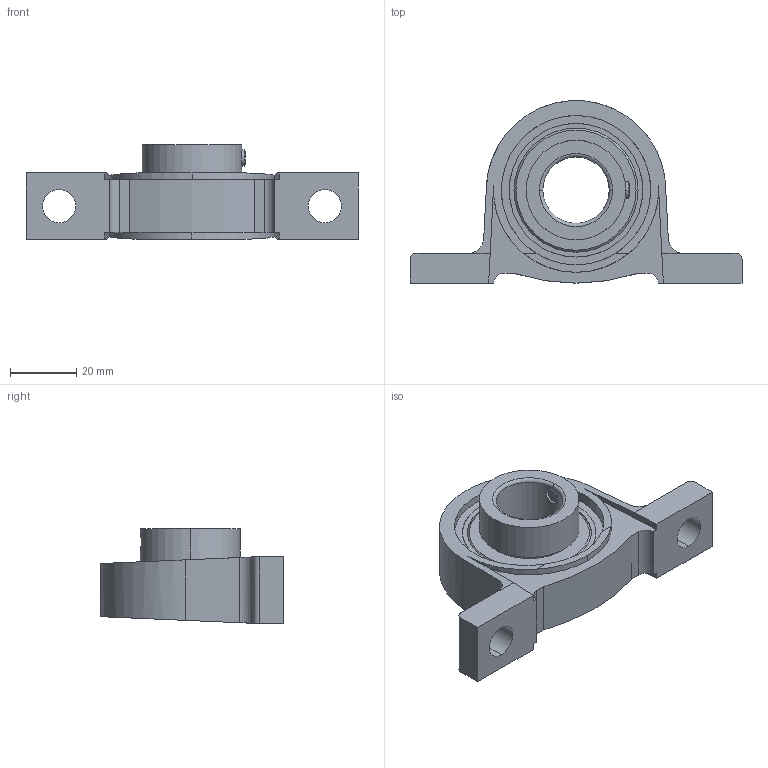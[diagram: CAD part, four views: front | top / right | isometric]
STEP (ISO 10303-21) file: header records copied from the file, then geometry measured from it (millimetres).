
FILE_DESCRIPTION (( 'STEP AP214' ), '1' );
FILE_NAME ('4.0016 Laakeri USBP 004 JIB.STEP', '2025-09-24T07:35:52', ( '' ), ( '' ), 'SwSTEP 2.0', 'SolidWorks 2025', '' );
FILE_SCHEMA (( 'AUTOMOTIVE_DESIGN' ));
Length unit declared in the file: millimetre
Products named in the file (1): 4.0016 Laakeri USBP 004 JIB
Bounding box: 100 x 54.93 x 28.5 mm (x, y, z)
Volume: 42251.5 mm3; surface area: 24050.4 mm2
Topology: 2 solids, 2 shells, 211 faces, 645 edges, 416 vertices
Faces by surface type: sphere 56, cylinder 52, torus 48, plane 45, cone 10
Entity records: 16098 total; most frequent: CARTESIAN_POINT 10487, ORIENTED_EDGE 1272, DIRECTION 1040, EDGE_CURVE 636, AXIS2_PLACEMENT_3D 448, VERTEX_POINT 413, EDGE_LOOP 255, B_SPLINE_CURVE_WITH_KNOTS 240
